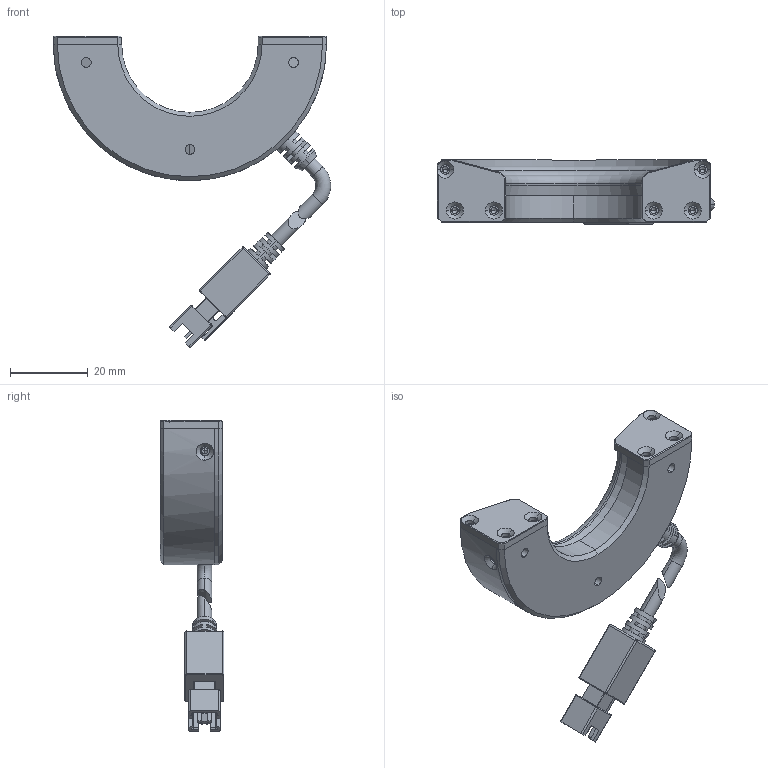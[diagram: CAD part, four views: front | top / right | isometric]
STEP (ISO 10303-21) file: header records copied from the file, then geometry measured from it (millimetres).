
FILE_DESCRIPTION (( 'STEP AP203' ), '1' );
FILE_NAME ('PPX-RIC7015-W.STEP', '2022-05-04T03:50:58', ( 'China' ), ( 'Home' ), 'SwSTEP 2.0', 'SolidWorks 2016', '' );
FILE_SCHEMA (( 'CONFIG_CONTROL_DESIGN' ));
Length unit declared in the file: millimetre
Products named in the file (7): PPX-RIC7015菁釱; PPX-RIC7015PCB-7; PPX-RIC7015俋褲; 謗郋萇埭盄 ㄗ譫傷ㄘ; PPX-RIC7015裔啣; PPX-RIC7015裔啣衵; PPX-RIC7015-W
Assembly tree (6 placements, depth 2):
  PPX-RIC7015-W
    PPX-RIC7015菁釱
    PPX-RIC7015PCB-7
    PPX-RIC7015俋褲
    謗郋萇埭盄 ㄗ譫傷ㄘ
    PPX-RIC7015裔啣
    PPX-RIC7015裔啣衵
Bounding box: 71.08 x 16.4 x 79.82 mm (x, y, z)
Volume: 18417.1 mm3; surface area: 16509.7 mm2
Topology: 7 solids, 7 shells, 451 faces, 1181 edges, 737 vertices
Faces by surface type: plane 213, cylinder 140, cone 70, torus 22, sphere 4, bspline 2
Entity records: 15081 total; most frequent: CARTESIAN_POINT 3099, DIRECTION 2415, ORIENTED_EDGE 2318, EDGE_CURVE 1159, AXIS2_PLACEMENT_3D 857, VERTEX_POINT 737, VECTOR 701, LINE 701
